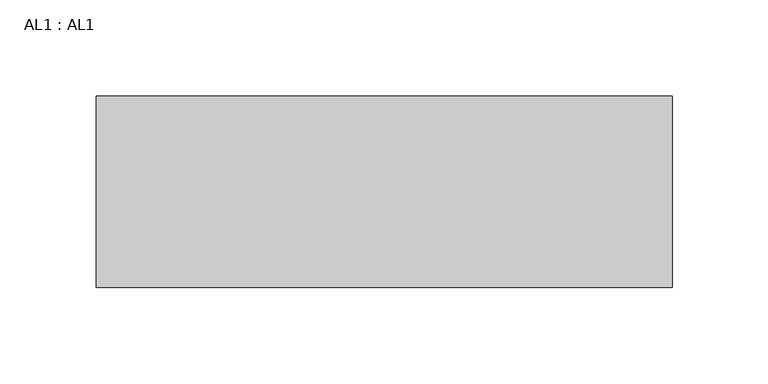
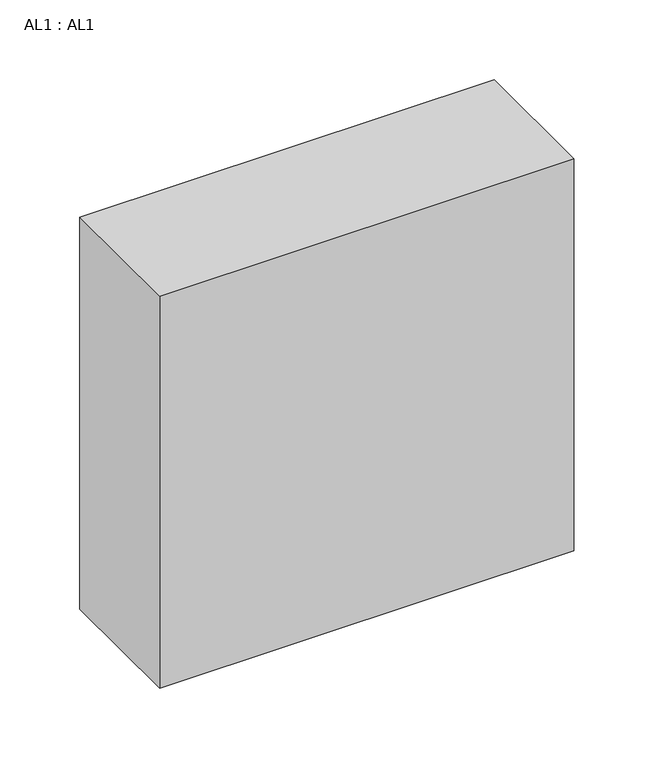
"""IFC4 building model written with IfcOpenShell, lengths in millimetres: proxy geometry, AL1 : AL1."""

from ifc_helpers import new_model, si_unit, frame, origin, place, context, project, spatial, polyline, outline, extrude, source, transform, mapped, element, save


def al1_al1_461033f7(model_context):
    return source(origin(), model_context, "Body", "SweptSolid", [
        extrude(outline(polyline([(23327.7, 4702.410085), (23327.7, 4602.410085), (23027.7, 4602.410085), (23027.7, 4702.410085), (23327.7, 4702.410085)])), frame((0.0, 0.0, 1050.0), z_axis=(0.0, 0.0, 1.0), x_axis=(1.0, 0.0, 0.0)), (0.0, 0.0, 1.0), 300.0),
    ])


if __name__ == "__main__":
    model = new_model("IFC4")
    model_context = context("Model", 3, world=origin())
    ifc_project = project(units=[si_unit("LENGTHUNIT", "METRE", prefix="MILLI")], contexts=[model_context])
    site = spatial("IfcSite", under=ifc_project)
    building = spatial("IfcBuilding", under=site)
    placement = place(None, origin())
    al1_al1_shape = al1_al1_461033f7(model_context)
    element("IfcBuildingElementProxy", 1, Name="AL1 : AL1", ObjectType="AL1 : AL1", at=placement, inside=building, context=model_context, shape_type="MappedRepresentation", body=[
        mapped(al1_al1_shape, transform((0.0, 0.0, 0.0), x_axis=(1.0, 0.0, 0.0), y_axis=(0.0, 1.0, 0.0), z_axis=(0.0, 0.0, 1.0))),
    ])
    save(model, "model.ifc")
